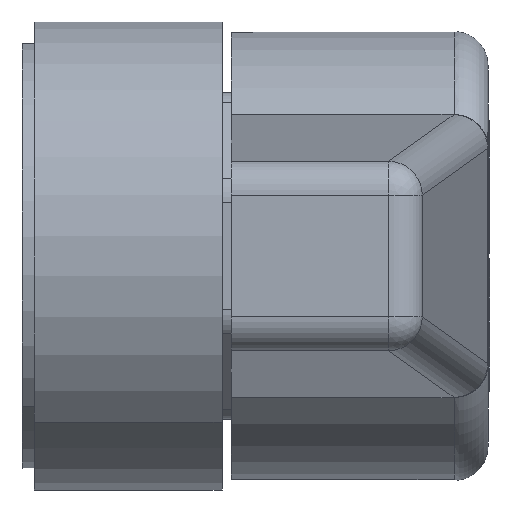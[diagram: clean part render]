
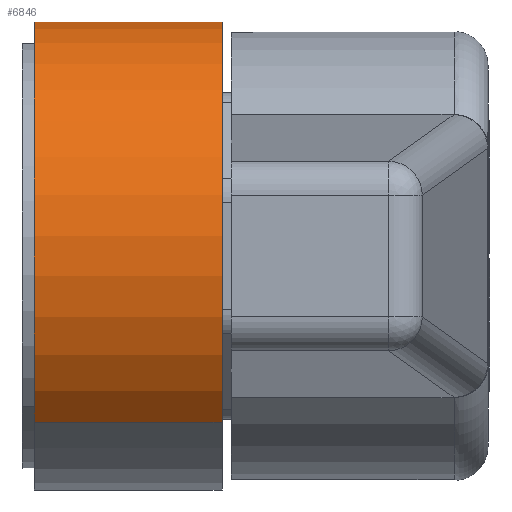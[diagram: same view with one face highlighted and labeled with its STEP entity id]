
A CAD part, front view. The second image highlights one B-rep face of the part: STEP entity #6846.
In plain terms, the highlighted cylindrical face has radius 15.812 mm (diameter 31.623 mm), a partial arc.
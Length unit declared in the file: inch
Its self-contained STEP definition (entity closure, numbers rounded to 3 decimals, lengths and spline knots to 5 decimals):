
#855=CARTESIAN_POINT('',(-0.025,0.,0.));
#856=DIRECTION('',(1.,0.,0.));
#857=DIRECTION('',(0.,0.707,0.707));
#858=AXIS2_PLACEMENT_3D('',#855,#856,#857);
#863=DIRECTION('',(-1.,0.,0.));
#864=VECTOR('',#863,0.498);
#865=CARTESIAN_POINT('',(-0.025,0.44017,0.44017));
#866=LINE('',#865,#864);
#870=DIRECTION('',(-1.,0.,0.));
#871=VECTOR('',#870,0.498);
#872=CARTESIAN_POINT('',(-0.025,-0.44017,-0.44017));
#873=LINE('',#872,#871);
#893=CARTESIAN_POINT('',(-0.523,0.,0.));
#894=DIRECTION('',(1.,0.,0.));
#895=DIRECTION('',(0.,0.707,0.707));
#896=AXIS2_PLACEMENT_3D('',#893,#894,#895);
#6208=CARTESIAN_POINT('',(-0.025,0.44017,0.44017));
#6209=CARTESIAN_POINT('',(-0.523,0.44017,0.44017));
#6210=VERTEX_POINT('',#6208);
#6211=VERTEX_POINT('',#6209);
#6216=CARTESIAN_POINT('',(-0.025,-0.44017,-0.44017));
#6217=CARTESIAN_POINT('',(-0.523,-0.44017,-0.44017));
#6218=VERTEX_POINT('',#6216);
#6219=VERTEX_POINT('',#6217);
#6832=CARTESIAN_POINT('',(-0.5815,0.,0.));
#6833=DIRECTION('',(1.,0.,0.));
#6834=DIRECTION('',(0.,-0.707,-0.707));
#6835=AXIS2_PLACEMENT_3D('',#6832,#6833,#6834);
#6836=CYLINDRICAL_SURFACE('',#6835,0.6225);
#6838=ORIENTED_EDGE('',*,*,#6837,.F.);
#6839=ORIENTED_EDGE('',*,*,#6792,.T.);
#6841=ORIENTED_EDGE('',*,*,#6840,.T.);
#6843=ORIENTED_EDGE('',*,*,#6842,.F.);
#6844=EDGE_LOOP('',(#6838,#6839,#6841,#6843));
#6845=FACE_OUTER_BOUND('',#6844,.F.);
#6846=ADVANCED_FACE('',(#6845),#6836,.T.);
#859=CIRCLE('',#858,0.6225);
#897=CIRCLE('',#896,0.6225);
#6792=EDGE_CURVE('',#6210,#6218,#859,.T.);
#6837=EDGE_CURVE('',#6210,#6211,#866,.T.);
#6840=EDGE_CURVE('',#6218,#6219,#873,.T.);
#6842=EDGE_CURVE('',#6211,#6219,#897,.T.);
